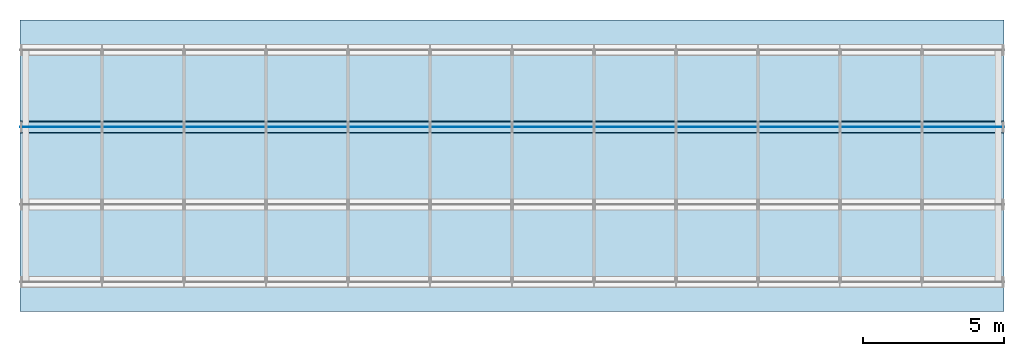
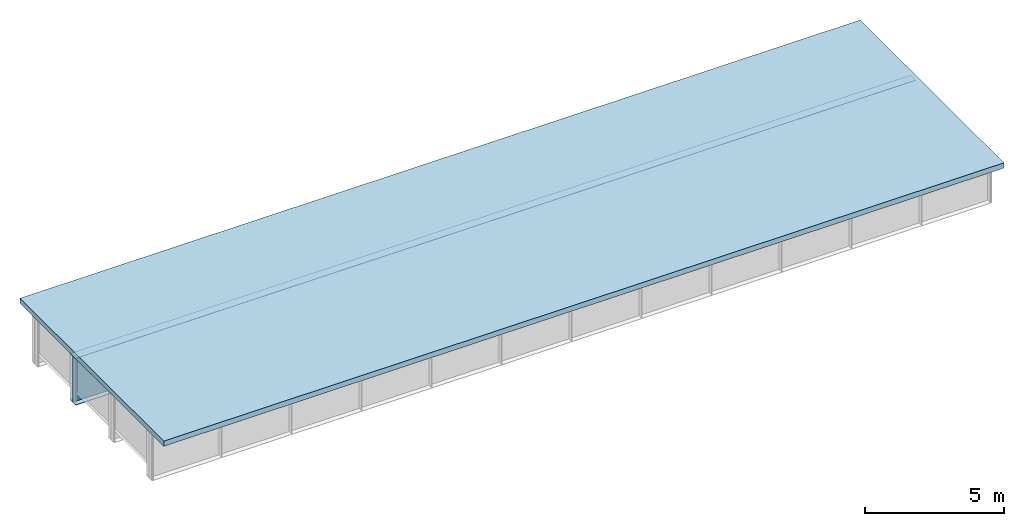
# One storey, part 9 of 13: 3 plates, 1 slab.
"""IFC4 building model written with IfcOpenShell, lengths in metres."""

import ifcopenshell
import ifcopenshell.guid

model = None  # the IFC model being written
_history = None  # IfcOwnerHistory: only IFC2X3 demands one
_inside = {}  # id of a spatial element -> (the spatial element, [elements in it])
_under = {}  # id of a project, library or spatial element -> (it, [spatial elements below it])
_declared = {}  # id of a project -> (the project, [libraries it declares])
_typed = {}  # id of a type object -> (the type object, [elements of that type])
_made_of = {}  # id of a material, layer set ... -> (it, [elements and type objects made of it])


def new_model(schema):
    """Start an empty IFC model of exactly this schema.

    Asked for "IFC4X3", IfcOpenShell would pick the latest addendum, in which some entities
    have other attributes; the version numbers below select the first issue.
    IFC2X3 requires an IfcOwnerHistory on every rooted entity: one is made here for all.
    """
    global model, _history
    if schema == "IFC4X3":
        model = ifcopenshell.file(schema_version=(4, 3, 0, 0))
    else:
        model = ifcopenshell.file(schema=schema)
    _inside.clear()
    _under.clear()
    _declared.clear()
    _typed.clear()
    _made_of.clear()
    _history = None
    if model.schema == "IFC2X3":
        org = make("IfcOrganization", Name="unknown")
        user = make(
            "IfcPersonAndOrganization",
            ThePerson=make("IfcPerson", FamilyName="unknown"),
            TheOrganization=org,
        )
        app = make(
            "IfcApplication",
            ApplicationDeveloper=org,
            Version="unknown",
            ApplicationFullName="unknown",
            ApplicationIdentifier="unknown",
        )
        _history = make(
            "IfcOwnerHistory",
            OwningUser=user,
            OwningApplication=app,
            ChangeAction="ADDED",
            CreationDate=0,
        )
    return model


def make(cls, **values):
    """One entity of the class cls with the attributes given. An attribute that is None is left unset."""
    return model.create_entity(
        cls, **{name: value for name, value in values.items() if value is not None}
    )


def rooted(cls, **values):
    """An entity with a GlobalId (a new one), such as an element, a storey or a relation."""
    return make(cls, GlobalId=ifcopenshell.guid.new(), OwnerHistory=_history, **values)


def si_unit(unit_type, name, prefix=None):
    """IfcSIUnit, for example si_unit("LENGTHUNIT", "METRE", prefix="MILLI")."""
    return make("IfcSIUnit", UnitType=unit_type, Prefix=prefix, Name=name)


def assignment(units):
    """IfcUnitAssignment: the units of a project."""
    return None if units is None else make("IfcUnitAssignment", Units=units)


def point(xyz):
    """IfcCartesianPoint."""
    return None if xyz is None else make("IfcCartesianPoint", Coordinates=xyz)


def direction(xyz):
    """IfcDirection."""
    return None if xyz is None else make("IfcDirection", DirectionRatios=xyz)


def frame(location, z_axis=None, x_axis=None):
    """IfcAxis2Placement3D, a coordinate frame: its origin and axes. An axis left out is left unset."""
    return make(
        "IfcAxis2Placement3D",
        Location=point(location),
        Axis=direction(z_axis),
        RefDirection=direction(x_axis),
    )


def frame_2d(location, x_axis=None):
    """IfcAxis2Placement2D, a coordinate frame in the plane: its origin and x axis."""
    return make(
        "IfcAxis2Placement2D", Location=point(location), RefDirection=direction(x_axis)
    )


def origin():
    """The frame at (0, 0, 0) with its axes left unset."""
    return frame((0.0, 0.0, 0.0))


def origin_with_axes():
    """The frame at (0, 0, 0) with the z axis (0, 0, 1) and the x axis (1, 0, 0) written out."""
    return frame((0.0, 0.0, 0.0), z_axis=(0.0, 0.0, 1.0), x_axis=(1.0, 0.0, 0.0))


def origin_2d_with_axis():
    """The frame at (0, 0) in the plane with the x axis (1, 0) written out."""
    return frame_2d((0.0, 0.0), x_axis=(1.0, 0.0))


def place(relative_to, where):
    """IfcLocalPlacement: puts the frame where relative to a parent placement (None: the world)."""
    return make(
        "IfcLocalPlacement", PlacementRelTo=relative_to, RelativePlacement=where
    )


def context(
    kind, dimensions, precision=None, world=None, true_north=None, identifier=None
):
    """IfcGeometricRepresentationContext, for example the 3D "Model" context."""
    return make(
        "IfcGeometricRepresentationContext",
        ContextIdentifier=identifier,
        ContextType=kind,
        CoordinateSpaceDimension=dimensions,
        Precision=precision,
        WorldCoordinateSystem=world,
        TrueNorth=true_north,
    )


def subcontext(parent, identifier, kind, view, scale=None):
    """IfcGeometricRepresentationSubContext, for example "Body" below "Model"."""
    return make(
        "IfcGeometricRepresentationSubContext",
        ContextIdentifier=identifier,
        ContextType=kind,
        ParentContext=parent,
        TargetScale=scale,
        TargetView=view,
    )


def project(units=None, contexts=None):
    """IfcProject with its units and contexts."""
    return rooted(
        "IfcProject",
        Name="project",
        RepresentationContexts=contexts,
        UnitsInContext=assignment(units),
    )


def spatial(cls, under=None, at=None, **own):
    """A site, building, storey or space (cls), placed at a placement, below another one or the project."""
    s = rooted(cls, ObjectPlacement=at, **own)
    if under is not None:
        _under.setdefault(under.id(), (under, []))[1].append(s)
    return s


def polyline(points):
    """IfcPolyline through the points."""
    return make("IfcPolyline", Points=[point(p) for p in points])


def profile(cls, at=None, kind="AREA", **sizes):
    """A parametric profile (cls). Its sizes go by their IFC names, for example OverallWidth=200.0."""
    return make(cls, ProfileType=kind, Position=at, **sizes)


def rectangle(**sizes):
    """IfcRectangleProfileDef."""
    return profile("IfcRectangleProfileDef", **sizes)


def outline(outer, holes=None, kind="AREA"):
    """IfcArbitraryClosedProfileDef: a profile drawn as a closed curve; with holes, ...WithVoids."""
    if holes is None:
        return make("IfcArbitraryClosedProfileDef", ProfileType=kind, OuterCurve=outer)
    return make(
        "IfcArbitraryProfileDefWithVoids",
        ProfileType=kind,
        OuterCurve=outer,
        InnerCurves=holes,
    )


def extrude(swept, where, along, depth):
    """IfcExtrudedAreaSolid: the profile swept, set in the frame where, extruded along a direction by depth."""
    return make(
        "IfcExtrudedAreaSolid",
        SweptArea=swept,
        Position=where,
        ExtrudedDirection=direction(along),
        Depth=depth,
    )


def shape(context_of_items, identifier, shape_type, items):
    """IfcShapeRepresentation: the items that make up one representation, for example the "Body"."""
    return make(
        "IfcShapeRepresentation",
        ContextOfItems=context_of_items,
        RepresentationIdentifier=identifier,
        RepresentationType=shape_type,
        Items=items,
    )


def made_of(thing, what):
    """Note that an element or type object is made of a material, layer set ...; save() writes the relation."""
    if what is not None:
        _made_of.setdefault(what.id(), (what, []))[1].append(thing)
    return thing


def element(
    cls,
    number,
    at=None,
    inside=None,
    cuts=None,
    type_object=None,
    material=None,
    context=None,
    identifier="Body",
    shape_type=None,
    held_by="IfcProductDefinitionShape",
    body=None,
    shapes=None,
    **own,
):
    """One element of the class cls, such as IfcWall. Its Tag is "e" and its number.

    at: its placement. inside: the storey or other place that contains it. cuts: it is an
    opening in that element (IfcRelVoidsElement). A single representation is given by context,
    identifier, shape_type and body (its items); several are given by shapes. held_by: the class
    of the entity that holds the representations. save() writes the other relations.
    """
    e = rooted(cls, Tag="e%d" % number, ObjectPlacement=at, **own)
    if body is not None:
        shapes = [shape(context, identifier, shape_type, body)]
    if shapes is not None:
        e.Representation = make(held_by, Representations=shapes)
    if inside is not None:
        _inside.setdefault(inside.id(), (inside, []))[1].append(e)
    if cuts is not None:
        rooted(
            "IfcRelVoidsElement", RelatingBuildingElement=cuts, RelatedOpeningElement=e
        )
    if type_object is not None:
        _typed.setdefault(type_object.id(), (type_object, []))[1].append(e)
    return made_of(e, material)


def aggregate(whole, parts):
    """IfcRelAggregates: a whole, such as a stair, and the parts it consists of."""
    return rooted("IfcRelAggregates", RelatingObject=whole, RelatedObjects=parts)


def save(model, path):
    """Write the relations noted so far, then the file.

    IfcRelAggregates (storeys below a building ...), IfcRelContainedInSpatialStructure (elements
    in a storey), IfcRelDefinesByType, IfcRelAssociatesMaterial and IfcRelDeclares: one each for
    every whole, place, type object, material and project.
    """
    for whole, parts in _under.values():
        aggregate(whole, parts)
    for where, things in _inside.values():
        rooted(
            "IfcRelContainedInSpatialStructure",
            RelatedElements=things,
            RelatingStructure=where,
        )
    for kind, things in _typed.values():
        rooted("IfcRelDefinesByType", RelatedObjects=things, RelatingType=kind)
    for what, things in _made_of.values():
        rooted("IfcRelAssociatesMaterial", RelatedObjects=things, RelatingMaterial=what)
    for by, libraries in _declared.values():
        rooted("IfcRelDeclares", RelatingContext=by, RelatedDefinitions=libraries)
    model.write(path)


model = new_model("IFC4")

# Units and contexts
model_context = context("Model", 3, precision=1e-05, world=origin())
body_context = subcontext(model_context, "Body", "Model", "MODEL_VIEW")
ifc_project = project(units=[si_unit("LENGTHUNIT", "METRE"), si_unit("AREAUNIT", "SQUARE_METRE"), si_unit("VOLUMEUNIT", "CUBIC_METRE"), si_unit("PLANEANGLEUNIT", "RADIAN")], contexts=[model_context])

# Site, building, storey
site_placement = place(None, origin_with_axes())
site = spatial("IfcSite", under=ifc_project, at=site_placement, Name="Default Site")
building_placement = place(site_placement, origin_with_axes())
building = spatial("IfcBuilding", under=site, at=building_placement, Name="Bridge Structure")
storey_placement = place(building_placement, origin_with_axes())
storey = spatial("IfcBuildingStorey", under=building, at=storey_placement, Name="Superstructure")

# Plates
plate_1_placement = place(storey_placement, frame((0.0, 1.375, 0.0), z_axis=(1.0, 0.0, 0.0), x_axis=(0.0, 1.0, 0.0)))
element("IfcPlate", 1, at=plate_1_placement, inside=storey, Name="Girder Web 3", context=body_context, shape_type="SweptSolid", body=[
    extrude(rectangle(XDim=0.018000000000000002, YDim=2.01, at=origin_2d_with_axis()), origin_with_axes(), (0.0, 0.0, 1.0), 35.0),
])
plate_2_placement = place(storey_placement, frame((0.0, 1.375, 1.014), z_axis=(1.0, 0.0, 0.0), x_axis=(0.0, 1.0, 0.0)))
element("IfcPlate", 2, at=plate_2_placement, inside=storey, Name="Top Flange 3", context=body_context, shape_type="SweptSolid", body=[
    extrude(rectangle(XDim=0.375, YDim=0.018000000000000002, at=origin_2d_with_axis()), origin_with_axes(), (0.0, 0.0, 1.0), 35.0),
])
plate_3_placement = place(storey_placement, frame((0.0, 1.375, -1.016), z_axis=(1.0, 0.0, 0.0), x_axis=(0.0, 1.0, 0.0)))
element("IfcPlate", 3, at=plate_3_placement, inside=storey, Name="Bottom Flange 3", context=body_context, shape_type="SweptSolid", body=[
    extrude(rectangle(XDim=0.425, YDim=0.022, at=origin_2d_with_axis()), origin_with_axes(), (0.0, 0.0, 1.0), 35.0),
])

# Slab
slab_placement = place(storey_placement, frame((0.0, 0.0, 1.0230000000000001), z_axis=(0.0, 0.0, 1.0), x_axis=(1.0, 0.0, 0.0)))
element("IfcSlab", 4, at=slab_placement, inside=storey, Name="Deck Slab", context=body_context, shape_type="SweptSolid", body=[
    extrude(outline(polyline([(0.0, -5.1875), (35.0, -5.1875), (35.0, 5.1875), (0.0, 5.1875), (0.0, -5.1875)])), origin_with_axes(), (0.0, 0.0, 1.0), 0.23),
])

save(model, "model.ifc")
